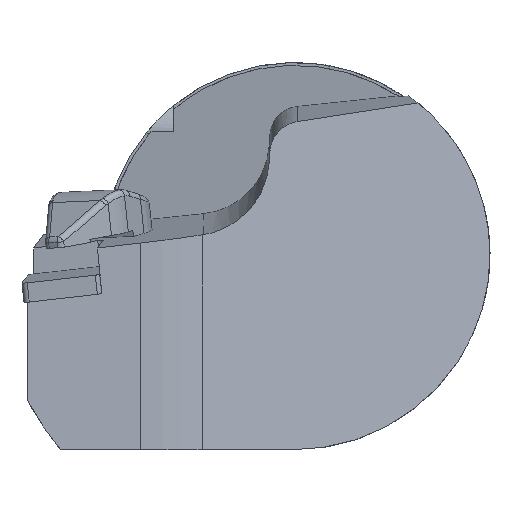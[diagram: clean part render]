
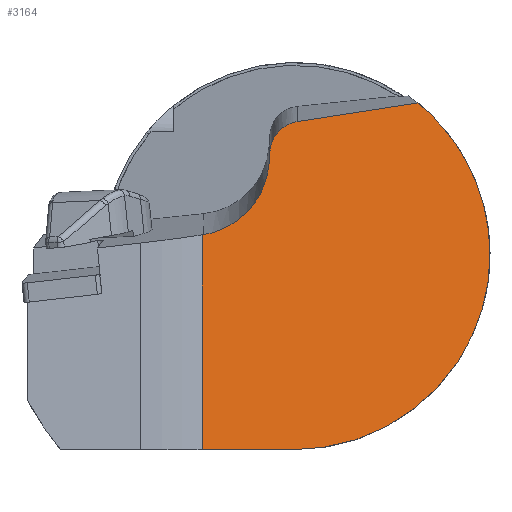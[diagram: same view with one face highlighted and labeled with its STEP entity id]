
A CAD part, left-side view. The second image highlights one B-rep face of the part: STEP entity #3164.
In plain terms, the highlighted planar face has unit normal (-0.906, -0.423, 0).
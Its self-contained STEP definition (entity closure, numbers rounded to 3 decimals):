
#2472=CARTESIAN_POINT('',(-43.722,-20.181,24.834));
#2473=VERTEX_POINT('',#2472);
#2482=CARTESIAN_POINT('',(-53.133,0.,-32.));
#2483=VERTEX_POINT('',#2482);
#2484=CARTESIAN_POINT('',(-53.133,0.,-32.));
#2485=CARTESIAN_POINT('',(-36.285,-36.131,-32.));
#2486=CARTESIAN_POINT('',(-30.647,-48.221,2.048));
#2487=CARTESIAN_POINT('',(-43.722,-20.181,24.834));
#2495=(BOUNDED_CURVE()B_SPLINE_CURVE(3,(#2484,#2485,#2486,#2487),.UNSPECIFIED.,.F.,.U.)CURVE()GEOMETRIC_REPRESENTATION_ITEM()QUASI_UNIFORM_CURVE()RATIONAL_B_SPLINE_CURVE((1.0,0.556,0.556,1.0))REPRESENTATION_ITEM(''));
#2496=EDGE_CURVE('',#2483,#2473,#2495,.T.);
#2558=CARTESIAN_POINT('',(-52.96,-0.371,21.781));
#2559=VERTEX_POINT('',#2558);
#2560=CARTESIAN_POINT('',(-43.722,-20.181,24.834));
#2561=DIRECTION('',(-0.419,0.898,-0.138));
#2562=VECTOR('',#2561,1.);
#2563=LINE('',#2560,#2562);
#2564=EDGE_CURVE('',#2473,#2559,#2563,.T.);
#2710=CARTESIAN_POINT('',(-60.223,15.206,-32.));
#2711=VERTEX_POINT('',#2710);
#2737=CARTESIAN_POINT('',(-53.133,0.,-32.));
#2738=DIRECTION('',(-0.423,0.906,0.));
#2739=VECTOR('',#2738,1.);
#2740=LINE('',#2737,#2739);
#2741=EDGE_CURVE('',#2483,#2711,#2740,.T.);
#2963=CARTESIAN_POINT('',(-60.223,15.206,3.205));
#2964=VERTEX_POINT('',#2963);
#3006=CARTESIAN_POINT('',(-60.108,14.958,3.243));
#3007=VERTEX_POINT('',#3006);
#3008=CARTESIAN_POINT('',(-60.223,15.206,3.205));
#3009=DIRECTION('',(0.419,-0.898,0.138));
#3010=VECTOR('',#3009,1.);
#3011=LINE('',#3008,#3010);
#3012=EDGE_CURVE('',#2964,#3007,#3011,.T.);
#3102=CARTESIAN_POINT('',(-60.223,15.206,3.205));
#3103=DIRECTION('',(0.0,0.0,-1.0));
#3104=VECTOR('',#3103,1.0);
#3105=LINE('',#3102,#3104);
#3106=EDGE_CURVE('',#2964,#2711,#3105,.T.);
#3114=CARTESIAN_POINT('',(-37.146,-34.283,27.676));
#3115=DIRECTION('',(0.906,0.423,0.));
#3116=DIRECTION('',(-0.423,0.906,0.));
#3117=AXIS2_PLACEMENT_3D('',#3114,#3115,#3116);
#3118=PLANE('',#3117);
#3119=ORIENTED_EDGE('',*,*,#2496,.T.);
#3120=ORIENTED_EDGE('',*,*,#2564,.T.);
#3121=CARTESIAN_POINT('',(-55.043,4.096,16.915));
#3122=VERTEX_POINT('',#3121);
#3123=CARTESIAN_POINT('',(-55.043,4.096,16.915));
#3124=CARTESIAN_POINT('',(-54.96,3.918,19.47));
#3125=CARTESIAN_POINT('',(-54.137,2.153,21.392));
#3126=CARTESIAN_POINT('',(-52.96,-0.371,21.781));
#3134=(BOUNDED_CURVE()B_SPLINE_CURVE(3,(#3123,#3124,#3125,#3126),.UNSPECIFIED.,.F.,.U.)CURVE()GEOMETRIC_REPRESENTATION_ITEM()QUASI_UNIFORM_CURVE()RATIONAL_B_SPLINE_CURVE((1.0,0.844,0.844,1.0))REPRESENTATION_ITEM(''));
#3135=EDGE_CURVE('',#3122,#2559,#3134,.T.);
#3136=ORIENTED_EDGE('',*,*,#3135,.F.);
#3137=CARTESIAN_POINT('',(-55.108,4.236,14.92));
#3138=VERTEX_POINT('',#3137);
#3139=CARTESIAN_POINT('',(-55.043,4.096,16.915));
#3140=DIRECTION('',(-0.032,0.07,-0.997));
#3141=VECTOR('',#3140,1.);
#3142=LINE('',#3139,#3141);
#3143=EDGE_CURVE('',#3122,#3138,#3142,.T.);
#3144=ORIENTED_EDGE('',*,*,#3143,.T.);
#3145=CARTESIAN_POINT('',(-55.108,4.236,14.92));
#3146=CARTESIAN_POINT('',(-55.308,4.664,8.788));
#3147=CARTESIAN_POINT('',(-57.282,8.899,4.177));
#3148=CARTESIAN_POINT('',(-60.108,14.958,3.243));
#3156=(BOUNDED_CURVE()B_SPLINE_CURVE(3,(#3145,#3146,#3147,#3148),.UNSPECIFIED.,.F.,.U.)CURVE()GEOMETRIC_REPRESENTATION_ITEM()QUASI_UNIFORM_CURVE()RATIONAL_B_SPLINE_CURVE((1.0,0.844,0.844,1.0))REPRESENTATION_ITEM(''));
#3157=EDGE_CURVE('',#3138,#3007,#3156,.T.);
#3158=ORIENTED_EDGE('',*,*,#3157,.T.);
#3159=ORIENTED_EDGE('',*,*,#3012,.F.);
#3160=ORIENTED_EDGE('',*,*,#3106,.T.);
#3161=ORIENTED_EDGE('',*,*,#2741,.F.);
#3162=EDGE_LOOP('',(#3119,#3120,#3136,#3144,#3158,#3159,#3160,#3161));
#3163=FACE_OUTER_BOUND('',#3162,.T.);
#3164=ADVANCED_FACE('',(#3163),#3118,.F.);
